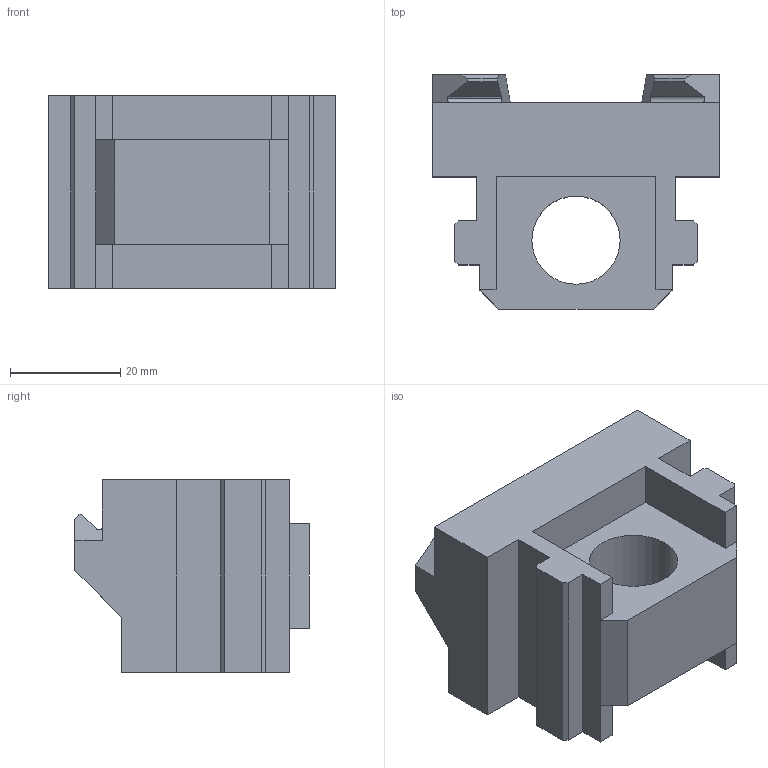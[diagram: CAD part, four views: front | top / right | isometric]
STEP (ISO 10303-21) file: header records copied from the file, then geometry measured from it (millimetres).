
FILE_DESCRIPTION (( 'STEP AP203' ), '1' );
FILE_NAME ('57708-0809.STEP', '2022-07-05T06:19:44', ( '' ), ( '' ), 'SwSTEP 2.0', 'SolidWorks 2021', '' );
FILE_SCHEMA (( 'CONFIG_CONTROL_DESIGN' ));
Length unit declared in the file: millimetre
Products named in the file (1): 57708-0809
Bounding box: 52 x 42.5 x 35 mm (x, y, z)
Volume: 40305.6 mm3; surface area: 11295.4 mm2
Topology: 1 solids, 1 shells, 396 faces, 1082 edges, 720 vertices
Faces by surface type: plane 301, bspline 90, cylinder 5
Entity records: 15351 total; most frequent: CARTESIAN_POINT 5859, ORIENTED_EDGE 2164, DIRECTION 1514, EDGE_CURVE 1082, VECTOR 892, LINE 892, VERTEX_POINT 720, EDGE_LOOP 430
